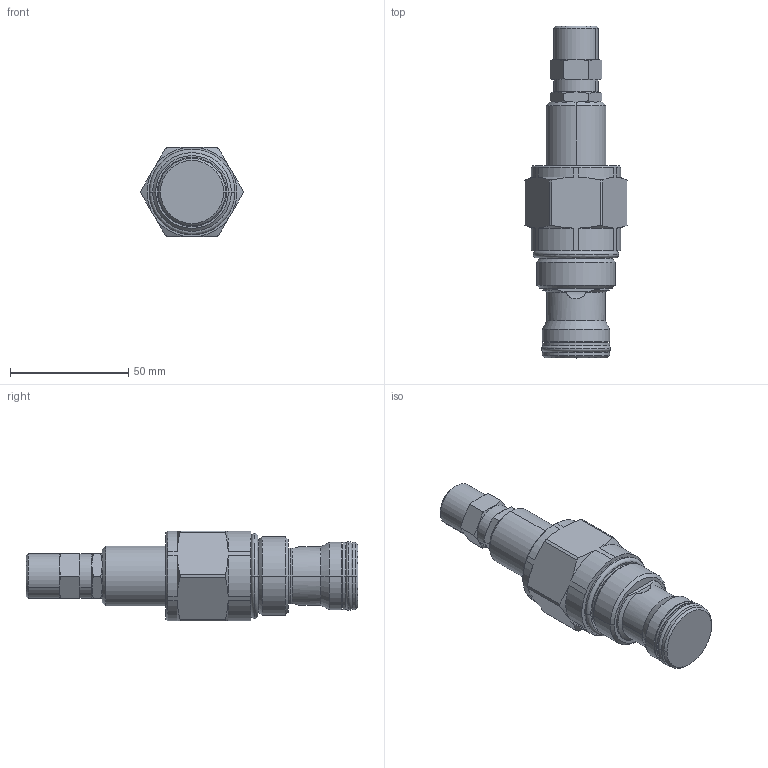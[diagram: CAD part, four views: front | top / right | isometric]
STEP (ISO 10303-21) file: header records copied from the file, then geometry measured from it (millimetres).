
FILE_DESCRIPTION((''),'2;1');
FILE_NAME('PRT0020','2009-03-25T',('JCS'),(''),'PRO/ENGINEER BY PARAMETRIC TECHNOLOGY CORPORATION, 2008510','PRO/ENGINEER BY PARAMETRIC TECHNOLOGY CORPORATION, 2008510','');
FILE_SCHEMA(('CONFIG_CONTROL_DESIGN'));
Length unit declared in the file: inch
Products named in the file (1): PRT0020
Bounding box: 43.23 x 140.64 x 38.04 mm (x, y, z)
Volume: 96614.4 mm3; surface area: 17833.5 mm2
Topology: 3 solids, 3 shells, 155 faces, 368 edges, 222 vertices
Faces by surface type: cone 54, cylinder 46, plane 29, revolution 16, torus 10
Entity records: 5166 total; most frequent: CARTESIAN_POINT 1633, ORIENTED_EDGE 736, DIRECTION 716, EDGE_CURVE 368, AXIS2_PLACEMENT_3D 295, VERTEX_POINT 222, EDGE_LOOP 162, CIRCLE 156
